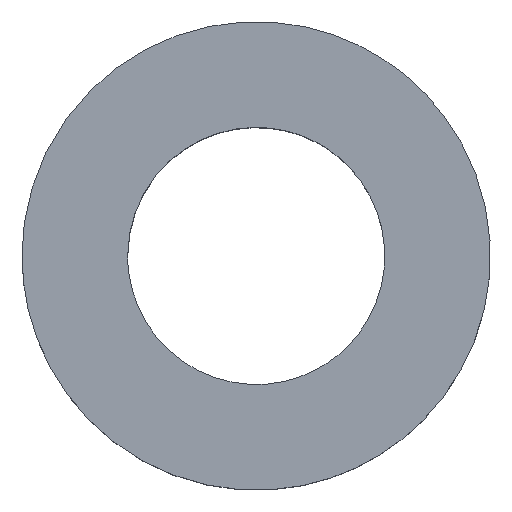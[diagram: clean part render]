
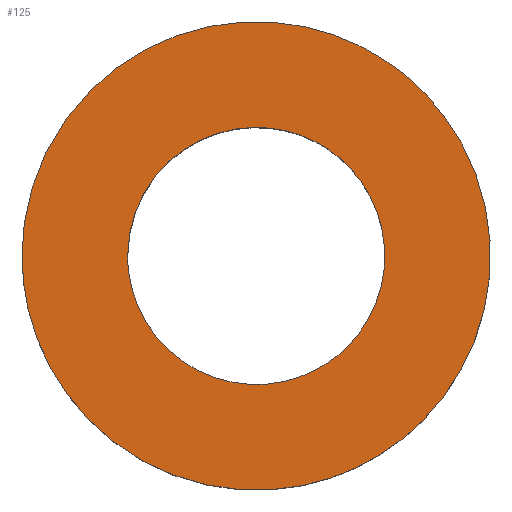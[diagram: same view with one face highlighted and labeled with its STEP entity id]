
A CAD part, top view. The second image highlights one B-rep face of the part: STEP entity #125.
In plain terms, the highlighted free-form (B-spline) face has degree [1, 1] with [2, 2] control points.
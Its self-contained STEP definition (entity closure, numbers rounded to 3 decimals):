
#92 = EDGE_CURVE('',#93,#93,#95,.T.);
#93 = VERTEX_POINT('',#94);
#94 = CARTESIAN_POINT('',(-4.1,0.,2.));
#95 = ( BOUNDED_CURVE() B_SPLINE_CURVE(2,(#96,#97,#98,#99,#100,#101,#102
),.UNSPECIFIED.,.T.,.F.) B_SPLINE_CURVE_WITH_KNOTS((1,2,2,2,2,1),(
    -2.094,0.,2.094,4.189,6.283,
8.378),.UNSPECIFIED.) CURVE() GEOMETRIC_REPRESENTATION_ITEM() 
RATIONAL_B_SPLINE_CURVE((1.,0.5,1.,0.5,1.,0.5,1.)) REPRESENTATION_ITEM(
  '') );
#96 = CARTESIAN_POINT('',(-4.1,0.,2.));
#97 = CARTESIAN_POINT('',(-4.1,7.101,2.));
#98 = CARTESIAN_POINT('',(2.05,3.551,2.));
#99 = CARTESIAN_POINT('',(8.2,0.,2.));
#100 = CARTESIAN_POINT('',(2.05,-3.551,2.));
#101 = CARTESIAN_POINT('',(-4.1,-7.101,2.));
#102 = CARTESIAN_POINT('',(-4.1,0.,2.));
#125 = ADVANCED_FACE('',(#126,#140),#143,.T.);
#126 = FACE_BOUND('',#127,.T.);
#127 = EDGE_LOOP('',(#128));
#128 = ORIENTED_EDGE('',*,*,#129,.T.);
#129 = EDGE_CURVE('',#130,#130,#132,.T.);
#130 = VERTEX_POINT('',#131);
#131 = CARTESIAN_POINT('',(-2.25,0.,2.));
#132 = ( BOUNDED_CURVE() B_SPLINE_CURVE(2,(#133,#134,#135,#136,#137,#138
,#139),.UNSPECIFIED.,.T.,.F.) B_SPLINE_CURVE_WITH_KNOTS((1,2,2,2,2,1),(
    -2.094,0.,2.094,4.189,6.283,
8.378),.UNSPECIFIED.) CURVE() GEOMETRIC_REPRESENTATION_ITEM() 
RATIONAL_B_SPLINE_CURVE((1.,0.5,1.,0.5,1.,0.5,1.)) REPRESENTATION_ITEM(
  '') );
#133 = CARTESIAN_POINT('',(-2.25,0.,2.));
#134 = CARTESIAN_POINT('',(-2.25,3.897,2.));
#135 = CARTESIAN_POINT('',(1.125,1.949,2.));
#136 = CARTESIAN_POINT('',(4.5,0.,2.));
#137 = CARTESIAN_POINT('',(1.125,-1.949,2.));
#138 = CARTESIAN_POINT('',(-2.25,-3.897,2.));
#139 = CARTESIAN_POINT('',(-2.25,0.,2.));
#140 = FACE_BOUND('',#141,.T.);
#141 = EDGE_LOOP('',(#142));
#142 = ORIENTED_EDGE('',*,*,#92,.F.);
#143 = B_SPLINE_SURFACE_WITH_KNOTS('',1,1,(
    (#144,#145)
    ,(#146,#147
    )),.UNSPECIFIED.,.F.,.F.,.F.,(2,2),(2,2),(0.,8.2),(-4.1,4.1),
  .PIECEWISE_BEZIER_KNOTS.);
#144 = CARTESIAN_POINT('',(-4.1,-4.1,2.));
#145 = CARTESIAN_POINT('',(-4.1,4.1,2.));
#146 = CARTESIAN_POINT('',(4.1,-4.1,2.));
#147 = CARTESIAN_POINT('',(4.1,4.1,2.));
